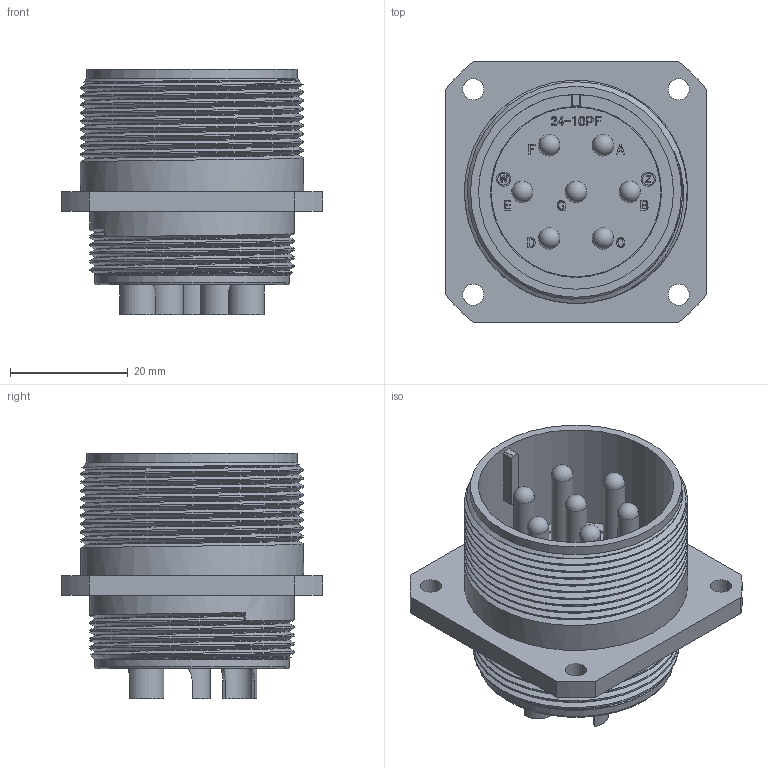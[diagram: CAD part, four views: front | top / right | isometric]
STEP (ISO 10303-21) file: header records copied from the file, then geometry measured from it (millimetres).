
FILE_DESCRIPTION (( 'STEP AP203' ), '1' );
FILE_NAME ('DMS3100A24-10P(D263).STEP', '2022-02-10T00:47:51', ( '' ), ( '' ), 'SwSTEP 2.0', 'SolidWorks 2018', '' );
FILE_SCHEMA (( 'CONFIG_CONTROL_DESIGN' ));
Length unit declared in the file: millimetre
Products named in the file (1): DMS3100A24-10P(D263)
Bounding box: 44.45 x 44.45 x 41.69 mm (x, y, z)
Volume: 21368.3 mm3; surface area: 17089.8 mm2
Topology: 1 solids, 1 shells, 691 faces, 1829 edges, 1205 vertices
Faces by surface type: plane 381, bspline 189, cylinder 104, torus 7, sphere 7, cone 3
Full cylindrical faces by diameter (mm): 2 x2, 2.4 x2, 3.61 x4, 3.63 x7, 5.21 x7, 6.25 x7, 8 x1, 26.21 x1, 28.85 x1, 29.08 x1, 30.75 x1, 33.12 x1, 33.15 x1, 34.83 x5, 35.87 x1, 37.95 x9
Entity records: 29282 total; most frequent: CARTESIAN_POINT 14210, ORIENTED_EDGE 3390, DIRECTION 2383, EDGE_CURVE 1695, VERTEX_POINT 1142, LINE 1127, VECTOR 1127, EDGE_LOOP 805
